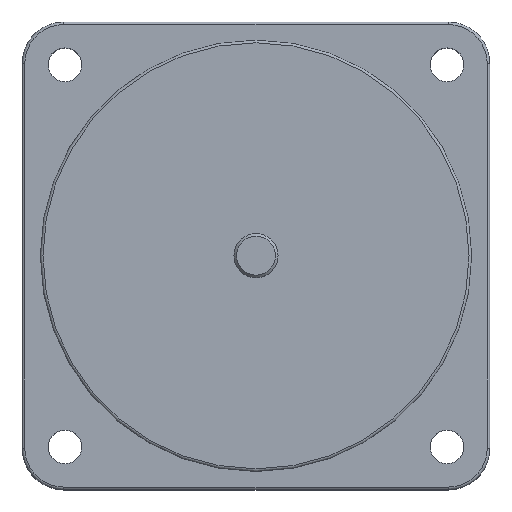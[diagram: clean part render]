
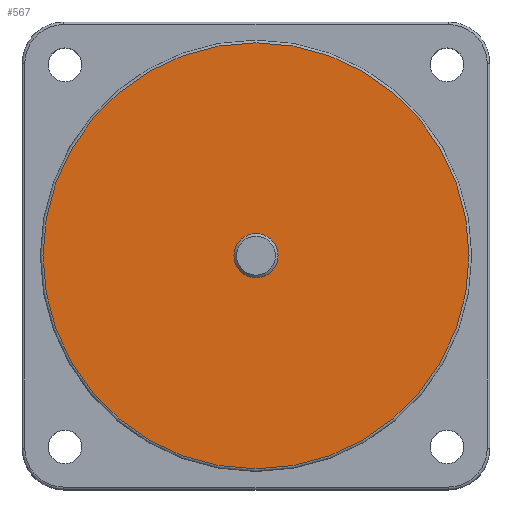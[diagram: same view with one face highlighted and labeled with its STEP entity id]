
A CAD part, top view. The second image highlights one B-rep face of the part: STEP entity #567.
In plain terms, the highlighted planar face has unit normal (0, 0, 1).
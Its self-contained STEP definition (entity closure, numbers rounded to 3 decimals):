
#513=CARTESIAN_POINT('',(41.,0.,39.0));
#514=VERTEX_POINT('',#513);
#515=CARTESIAN_POINT('',(0.0,0.0,39.0));
#516=DIRECTION('',(0.0,0.0,-1.0));
#517=DIRECTION('',(-1.0,0.0,0.0));
#518=AXIS2_PLACEMENT_3D('',#515,#516,#517);
#519=CIRCLE('',#518,41.);
#520=EDGE_CURVE('',#514,#514,#519,.T.);
#548=CARTESIAN_POINT('',(0.0,0.0,39.0));
#549=DIRECTION('',(0.0,0.0,-1.0));
#550=DIRECTION('',(-1.0,0.0,0.0));
#551=AXIS2_PLACEMENT_3D('',#548,#549,#550);
#552=PLANE('',#551);
#553=ORIENTED_EDGE('',*,*,#520,.F.);
#554=EDGE_LOOP('',(#553));
#555=FACE_OUTER_BOUND('',#554,.T.);
#556=CARTESIAN_POINT('',(4.25,0.,39.0));
#557=VERTEX_POINT('',#556);
#558=CARTESIAN_POINT('',(0.0,0.0,39.0));
#559=DIRECTION('',(0.0,0.0,-1.0));
#560=DIRECTION('',(-1.0,0.0,0.0));
#561=AXIS2_PLACEMENT_3D('',#558,#559,#560);
#562=CIRCLE('',#561,4.25);
#563=EDGE_CURVE('',#557,#557,#562,.T.);
#564=ORIENTED_EDGE('',*,*,#563,.T.);
#565=EDGE_LOOP('',(#564));
#566=FACE_BOUND('',#565,.T.);
#567=ADVANCED_FACE('',(#555,#566),#552,.F.);
